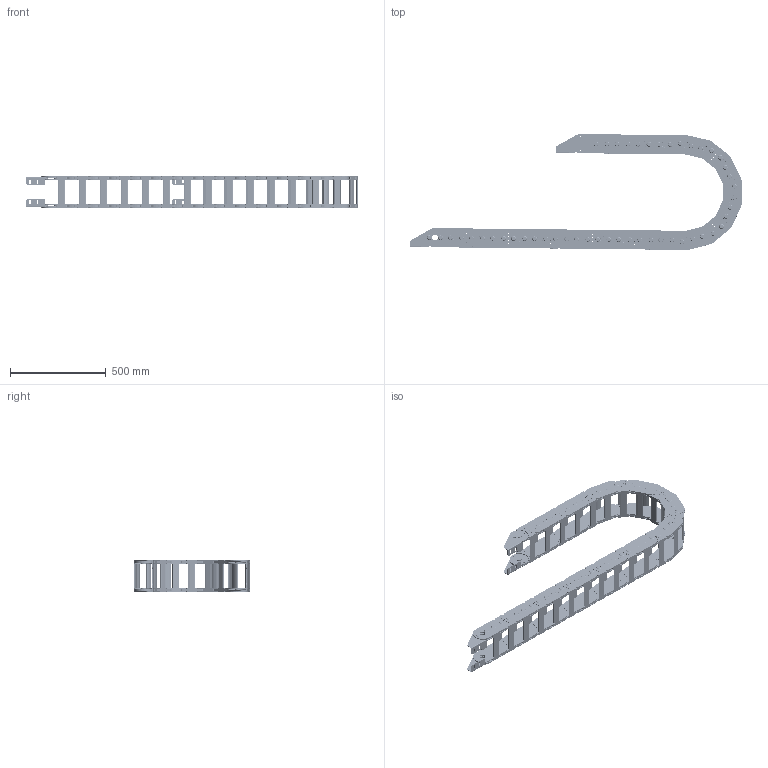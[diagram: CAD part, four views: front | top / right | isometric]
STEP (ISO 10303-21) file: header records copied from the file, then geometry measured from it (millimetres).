
FILE_DESCRIPTION((''),'2;1');
FILE_NAME('80GD-75-R250_ASM','2022-07-31T16:09:32',('admin'),(''),'CREO PARAMETRIC BY PTC INC, 2021164','CREO PARAMETRIC BY PTC INC, 2021164','');
FILE_SCHEMA(('CONFIG_CONTROL_DESIGN','GEOMETRIC_VALIDATION_PROPERTIES_MIM'));
Length unit declared in the file: millimetre
Products named in the file (5): 80-A; 80-B; 80-LTT; 80-LTT-2; 80GD-75-R250_ASM
Assembly tree (26 placements, depth 2):
  80GD-75-R250_ASM
    80-A  x12
    80-B  x12
    80-LTT
    80-LTT-2
Bounding box: 1736.09 x 605.49 x 170.4 mm (x, y, z)
Volume: 11680982.4 mm3; surface area: 3653548.1 mm2
Topology: 100 solids, 100 shells, 4240 faces, 11486 edges, 7786 vertices
Faces by surface type: cylinder 1876, plane 1692, torus 480, cone 192
Entity records: 21429 total; most frequent: DIRECTION 3090, CARTESIAN_POINT 2854, ORIENTED_EDGE 2732, EDGE_CURVE 1366, AXIS2_PLACEMENT_3D 1193, PRESENTATION_STYLE_ASSIGNMENT 1114, STYLED_ITEM 1114, VERTEX_POINT 922
